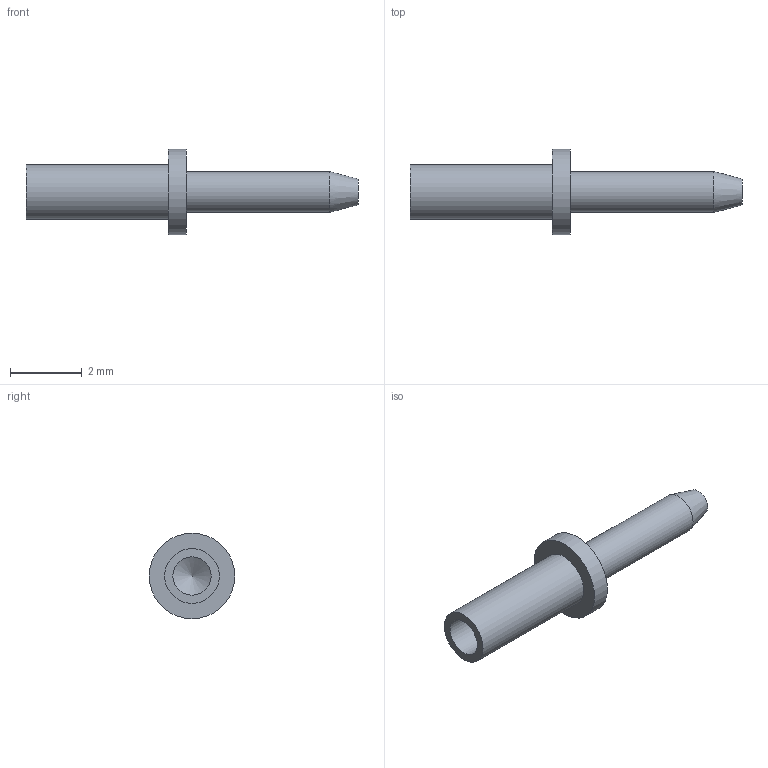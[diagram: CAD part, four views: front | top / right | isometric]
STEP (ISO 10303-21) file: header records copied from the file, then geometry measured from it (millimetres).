
FILE_DESCRIPTION(/* description */ (''),/* implementation_level */ '2;1');
FILE_NAME(/* name */ 'Z:\STEP folder\460322004.ipt.stp',/* time_stamp */ '2016-12-21T13:05:44+00:00',/* author */ ('Paul Karlsons'),/* organization */ (''),/* preprocessor_version */ 'ST-DEVELOPER v15.2',/* originating_system */ 'Autodesk Inventor 2014',/* authorisation */ '');
FILE_SCHEMA (('AUTOMOTIVE_DESIGN { 1 0 10303 214 3 1 1 }'));
Length unit declared in the file: millimetre
Products named in the file (1): 460322004
Bounding box: 9.24 x 2.38 x 2.38 mm (x, y, z)
Volume: 13.1 mm3; surface area: 51.3 mm2
Topology: 1 solids, 1 shells, 10 faces, 16 edges, 10 vertices
Faces by surface type: cylinder 4, plane 4, cone 2
Full cylindrical faces by diameter (mm): 1.066 x1, 1.143 x1, 1.524 x1, 2.38 x1
Entity records: 215 total; most frequent: DIRECTION 40, CARTESIAN_POINT 29, AXIS2_PLACEMENT_3D 20, EDGE_LOOP 18, ORIENTED_EDGE 18, FACE_BOUND 10, ADVANCED_FACE 10, CIRCLE 9
